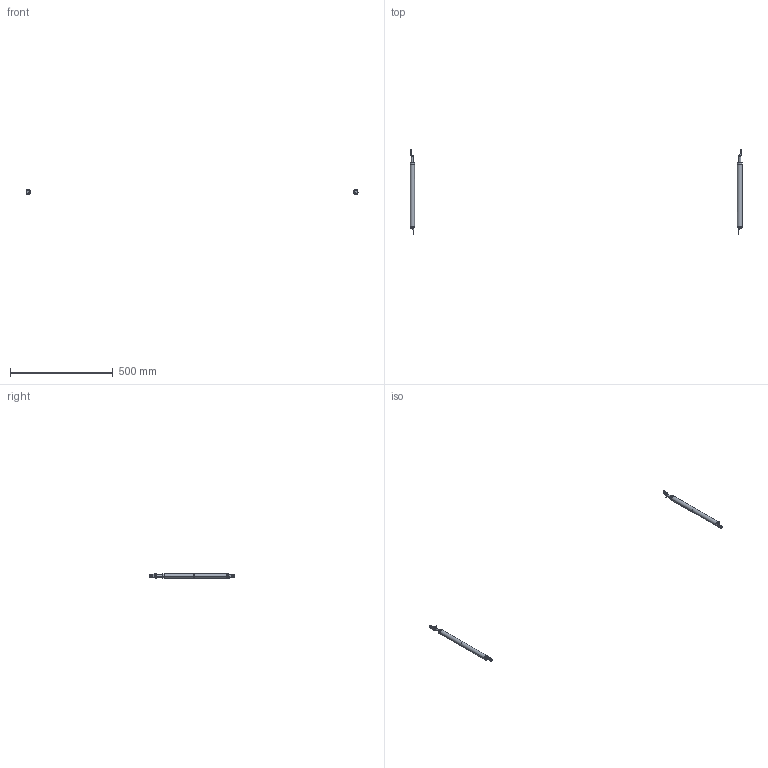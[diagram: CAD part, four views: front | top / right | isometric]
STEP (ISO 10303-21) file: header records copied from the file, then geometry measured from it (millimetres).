
FILE_DESCRIPTION(/* description */ (''),/* implementation_level */ '2;1');
FILE_NAME(/* name */ 'FR4D2C~1',/* time_stamp */ '2014-02-14T19:35:12+01:00',/* author */ (''),/* organization */ (''),/* preprocessor_version */ 'ST-DEVELOPER v14',/* originating_system */ '',/* authorisation */ '');
FILE_SCHEMA (('AUTOMOTIVE_DESIGN'));
Length unit declared in the file: millimetre
Products named in the file (1): Document
Bounding box: 1614 x 413.99 x 22 mm (x, y, z)
Surface area: 76476.1 mm2 (no closed solid volume)
Topology: 0 solids, 170 shells, 170 faces, 476 edges, 476 vertices
Faces by surface type: plane 102, bspline 68
Entity records: 13233 total; most frequent: CARTESIAN_POINT 6992, B_SPLINE_CURVE_WITH_KNOTS 620, ORIENTED_EDGE 476, PCURVE 476, DEFINITIONAL_REPRESENTATION 476, SURFACE_CURVE 476, EDGE_CURVE 476, VERTEX_POINT 476
